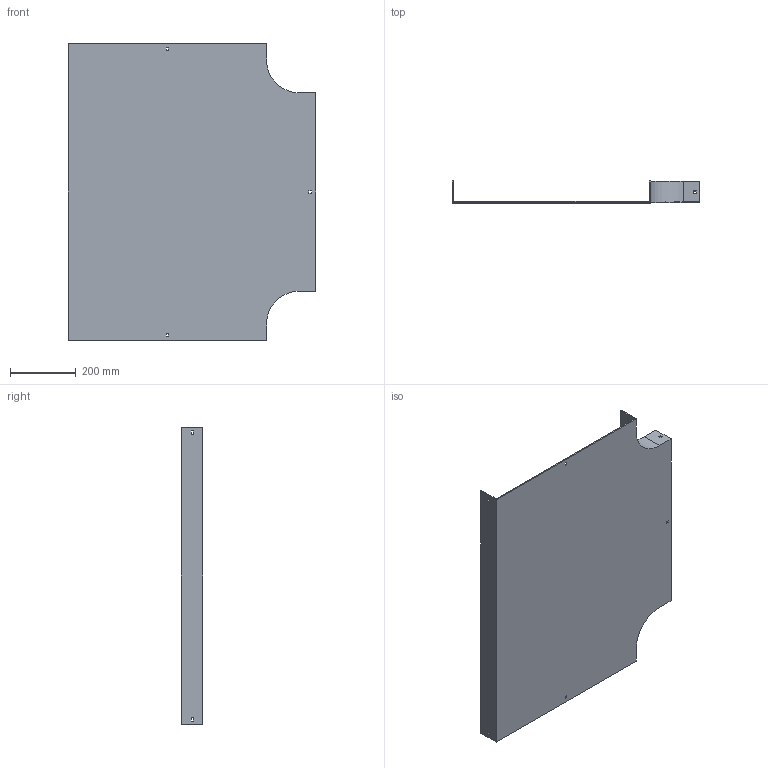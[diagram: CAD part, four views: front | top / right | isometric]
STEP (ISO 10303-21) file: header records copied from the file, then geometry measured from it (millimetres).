
FILE_DESCRIPTION (( 'STEP AP214' ), '1' );
FILE_NAME ('15B1H600.step', '2025-02-21T09:55:02', ( '' ), ( '' ), 'SwSTEP 2.0', 'SolidWorks 2023', '' );
FILE_SCHEMA (( 'AUTOMOTIVE_DESIGN' ));
Length unit declared in the file: millimetre
Products named in the file (1): 15B1H600
Bounding box: 754 x 65.5 x 904 mm (x, y, z)
Volume: 2550027.5 mm3; surface area: 1470805.6 mm2
Topology: 1 solids, 1 shells, 58 faces, 168 edges, 112 vertices
Faces by surface type: plane 54, cylinder 4
Entity records: 1939 total; most frequent: CARTESIAN_POINT 339, ORIENTED_EDGE 336, DIRECTION 294, EDGE_CURVE 168, LINE 160, VECTOR 160, VERTEX_POINT 112, EDGE_LOOP 76
